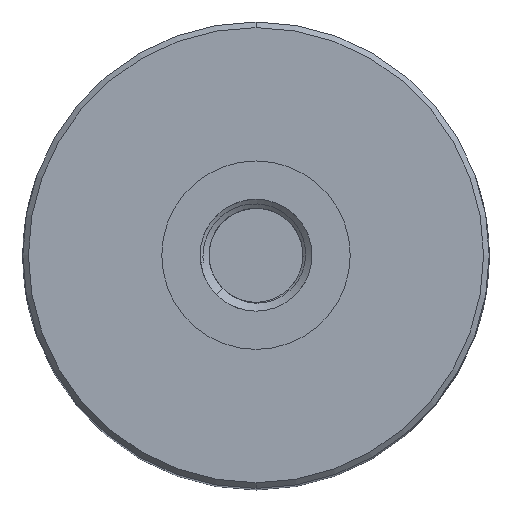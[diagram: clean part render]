
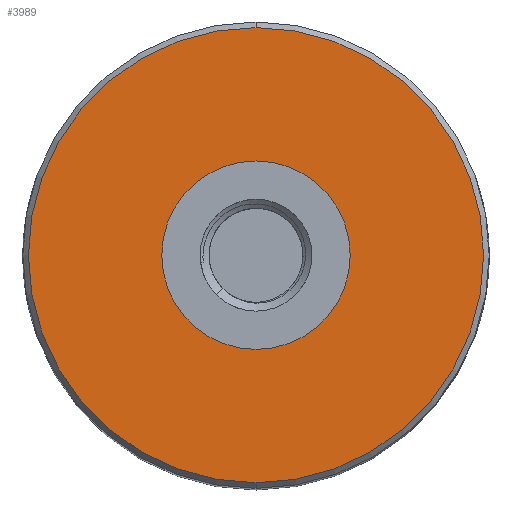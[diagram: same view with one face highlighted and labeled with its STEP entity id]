
A CAD part, top view. The second image highlights one B-rep face of the part: STEP entity #3989.
In plain terms, the highlighted planar face has unit normal (0, 0, 1).
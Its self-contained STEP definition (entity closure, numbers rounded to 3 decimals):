
#1230=CARTESIAN_POINT('',(0.,0.,25.));
#1231=DIRECTION('',(0.,0.,1.));
#1232=DIRECTION('',(0.,1.,0.));
#1233=AXIS2_PLACEMENT_3D('',#1230,#1231,#1232);
#1235=CARTESIAN_POINT('',(0.,0.,25.));
#1236=DIRECTION('',(0.,0.,1.));
#1237=DIRECTION('',(0.,-1.,0.));
#1238=AXIS2_PLACEMENT_3D('',#1235,#1236,#1237);
#1240=CARTESIAN_POINT('',(0.,0.,25.));
#1241=DIRECTION('',(0.,0.,-1.));
#1242=DIRECTION('',(0.,1.,0.));
#1243=AXIS2_PLACEMENT_3D('',#1240,#1241,#1242);
#1253=CARTESIAN_POINT('',(0.,0.,25.));
#1254=DIRECTION('',(0.,0.,1.));
#1255=DIRECTION('',(0.,1.,0.));
#1256=AXIS2_PLACEMENT_3D('',#1253,#1254,#1255);
#2275=CARTESIAN_POINT('',(0.,5.05,25.));
#2277=VERTEX_POINT('',#2275);
#2283=CARTESIAN_POINT('',(0.,-5.05,25.));
#2285=VERTEX_POINT('',#2283);
#2372=CARTESIAN_POINT('',(0.,12.2,25.));
#2373=CARTESIAN_POINT('',(0.,-12.2,25.));
#2374=VERTEX_POINT('',#2372);
#2375=VERTEX_POINT('',#2373);
#3973=CARTESIAN_POINT('',(0.,0.,25.));
#3974=DIRECTION('',(0.,0.,-1.));
#3975=DIRECTION('',(0.,-1.,0.));
#3976=AXIS2_PLACEMENT_3D('',#3973,#3974,#3975);
#3977=PLANE('',#3976);
#3978=ORIENTED_EDGE('',*,*,#3963,.F.);
#3980=ORIENTED_EDGE('',*,*,#3979,.F.);
#3981=EDGE_LOOP('',(#3978,#3980));
#3982=FACE_OUTER_BOUND('',#3981,.F.);
#3984=ORIENTED_EDGE('',*,*,#3983,.F.);
#3986=ORIENTED_EDGE('',*,*,#3985,.T.);
#3987=EDGE_LOOP('',(#3984,#3986));
#3988=FACE_BOUND('',#3987,.F.);
#3989=ADVANCED_FACE('',(#3982,#3988),#3977,.F.);
#1234=CIRCLE('',#1233,12.2);
#1239=CIRCLE('',#1238,12.2);
#1244=CIRCLE('',#1243,5.05);
#1257=CIRCLE('',#1256,5.05);
#3963=EDGE_CURVE('',#2374,#2375,#1234,.T.);
#3979=EDGE_CURVE('',#2375,#2374,#1239,.T.);
#3983=EDGE_CURVE('',#2277,#2285,#1244,.T.);
#3985=EDGE_CURVE('',#2277,#2285,#1257,.T.);
